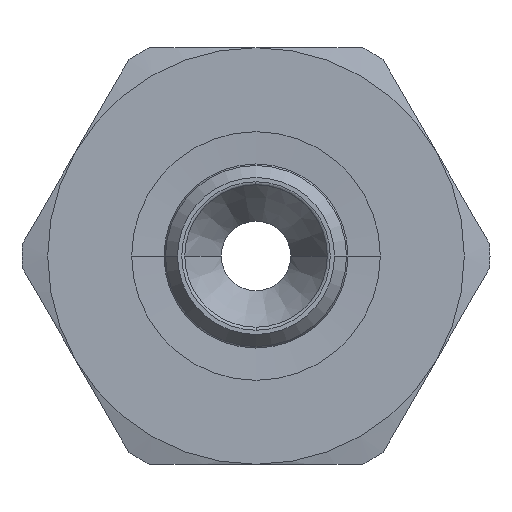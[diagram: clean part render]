
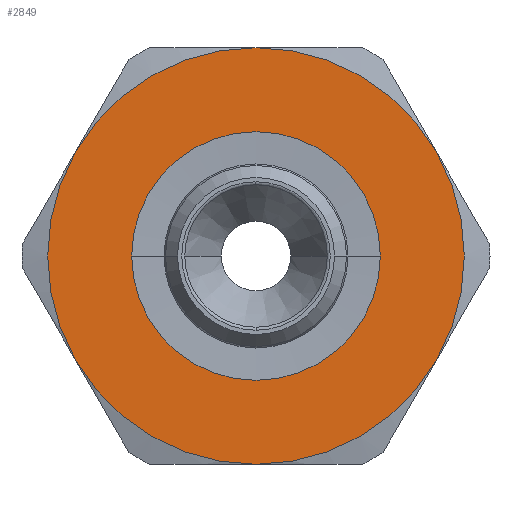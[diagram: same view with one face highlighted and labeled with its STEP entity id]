
A CAD part, left-side view. The second image highlights one B-rep face of the part: STEP entity #2849.
In plain terms, the highlighted planar face has unit normal (-1, 0, 0) as drawn and (0, 0, 1) by its records, which use the part's own axes.
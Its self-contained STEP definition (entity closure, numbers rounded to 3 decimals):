
#1176=CARTESIAN_POINT('',(0.,-8.95,3.5));
#1177=VERTEX_POINT('',#1176);
#1193=CARTESIAN_POINT('',(0.,8.95,3.5));
#1194=VERTEX_POINT('',#1193);
#1201=CARTESIAN_POINT('',(0.,0.,3.5));
#1202=DIRECTION('',(0.0,0.0,-1.0));
#1203=DIRECTION('',(0.0,-1.0,0.0));
#1204=AXIS2_PLACEMENT_3D('',#1201,#1202,#1203);
#1205=CIRCLE('',#1204,8.95);
#1206=EDGE_CURVE('',#1177,#1194,#1205,.T.);
#1663=CARTESIAN_POINT('',(0.,0.,3.5));
#1664=DIRECTION('',(0.0,0.0,-1.0));
#1665=DIRECTION('',(0.0,-1.0,0.0));
#1666=AXIS2_PLACEMENT_3D('',#1663,#1664,#1665);
#1667=CIRCLE('',#1666,8.95);
#1668=EDGE_CURVE('',#1194,#1177,#1667,.T.);
#2222=CARTESIAN_POINT('',(7.5,-12.99,3.5));
#2223=VERTEX_POINT('',#2222);
#2237=CARTESIAN_POINT('',(-7.5,-12.99,3.5));
#2238=VERTEX_POINT('',#2237);
#2239=CARTESIAN_POINT('',(0.,0.0,3.5));
#2240=DIRECTION('',(0.0,0.0,1.0));
#2241=DIRECTION('',(1.0,0.0,0.0));
#2242=AXIS2_PLACEMENT_3D('',#2239,#2240,#2241);
#2243=CIRCLE('',#2242,15.);
#2244=EDGE_CURVE('',#2238,#2223,#2243,.T.);
#2322=CARTESIAN_POINT('',(-15.,0.,3.5));
#2323=VERTEX_POINT('',#2322);
#2324=CARTESIAN_POINT('',(0.,0.0,3.5));
#2325=DIRECTION('',(0.0,0.0,1.0));
#2326=DIRECTION('',(1.0,0.0,0.0));
#2327=AXIS2_PLACEMENT_3D('',#2324,#2325,#2326);
#2328=CIRCLE('',#2327,15.);
#2329=EDGE_CURVE('',#2323,#2238,#2328,.T.);
#2406=CARTESIAN_POINT('',(-7.5,12.99,3.5));
#2407=VERTEX_POINT('',#2406);
#2408=CARTESIAN_POINT('',(0.,0.0,3.5));
#2409=DIRECTION('',(0.0,0.0,1.0));
#2410=DIRECTION('',(1.0,0.0,0.0));
#2411=AXIS2_PLACEMENT_3D('',#2408,#2409,#2410);
#2412=CIRCLE('',#2411,15.);
#2413=EDGE_CURVE('',#2407,#2323,#2412,.T.);
#2490=CARTESIAN_POINT('',(7.5,12.99,3.5));
#2491=VERTEX_POINT('',#2490);
#2492=CARTESIAN_POINT('',(0.,0.0,3.5));
#2493=DIRECTION('',(0.0,0.0,1.0));
#2494=DIRECTION('',(1.0,0.0,0.0));
#2495=AXIS2_PLACEMENT_3D('',#2492,#2493,#2494);
#2496=CIRCLE('',#2495,15.);
#2497=EDGE_CURVE('',#2491,#2407,#2496,.T.);
#2575=CARTESIAN_POINT('',(15.0,0.0,3.5));
#2576=VERTEX_POINT('',#2575);
#2577=CARTESIAN_POINT('',(0.,0.0,3.5));
#2578=DIRECTION('',(0.0,0.0,1.0));
#2579=DIRECTION('',(1.0,0.0,0.0));
#2580=AXIS2_PLACEMENT_3D('',#2577,#2578,#2579);
#2581=CIRCLE('',#2580,15.);
#2582=EDGE_CURVE('',#2576,#2491,#2581,.T.);
#2659=CARTESIAN_POINT('',(0.,0.0,3.5));
#2660=DIRECTION('',(0.0,0.0,1.0));
#2661=DIRECTION('',(1.0,0.0,0.0));
#2662=AXIS2_PLACEMENT_3D('',#2659,#2660,#2661);
#2663=CIRCLE('',#2662,15.);
#2664=EDGE_CURVE('',#2223,#2576,#2663,.T.);
#2832=CARTESIAN_POINT('',(0.0,0.,3.5));
#2833=DIRECTION('',(0.0,0.0,1.0));
#2834=DIRECTION('',(1.0,0.0,0.0));
#2835=AXIS2_PLACEMENT_3D('',#2832,#2833,#2834);
#2836=PLANE('',#2835);
#2837=ORIENTED_EDGE('',*,*,#2664,.T.);
#2838=ORIENTED_EDGE('',*,*,#2582,.T.);
#2839=ORIENTED_EDGE('',*,*,#2497,.T.);
#2840=ORIENTED_EDGE('',*,*,#2413,.T.);
#2841=ORIENTED_EDGE('',*,*,#2329,.T.);
#2842=ORIENTED_EDGE('',*,*,#2244,.T.);
#2843=EDGE_LOOP('',(#2837,#2838,#2839,#2840,#2841,#2842));
#2844=FACE_OUTER_BOUND('',#2843,.T.);
#2845=ORIENTED_EDGE('',*,*,#1206,.T.);
#2846=ORIENTED_EDGE('',*,*,#1668,.T.);
#2847=EDGE_LOOP('',(#2845,#2846));
#2848=FACE_BOUND('',#2847,.T.);
#2849=ADVANCED_FACE('',(#2844,#2848),#2836,.T.);
